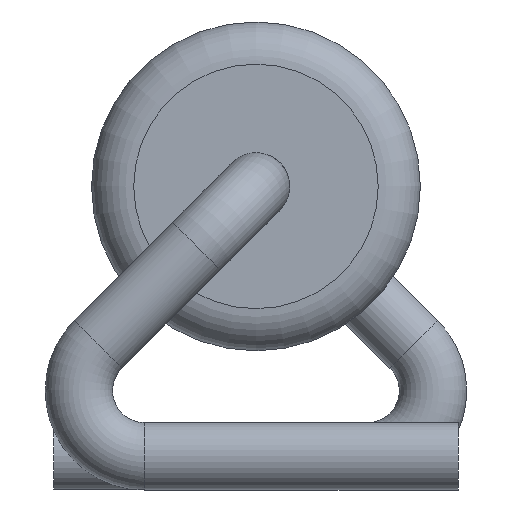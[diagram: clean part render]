
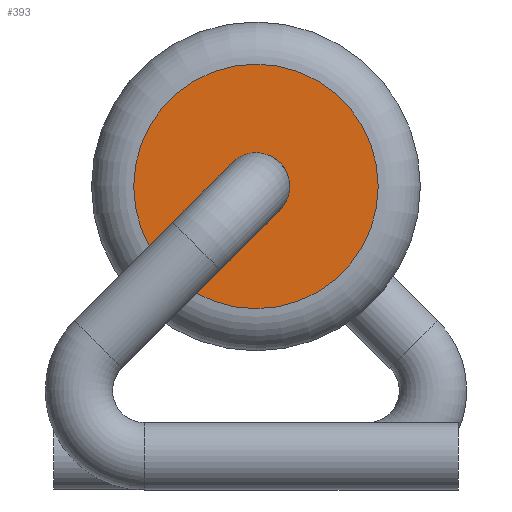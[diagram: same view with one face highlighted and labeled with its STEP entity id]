
A CAD part, left-side view. The second image highlights one B-rep face of the part: STEP entity #393.
In plain terms, the highlighted planar face has unit normal (-1, 0, 0).
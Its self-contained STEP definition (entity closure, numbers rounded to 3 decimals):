
#270=CARTESIAN_POINT('',(-5.5,0.4,0.));
#271=VERTEX_POINT('',#270);
#272=CARTESIAN_POINT('',(-5.5,0.0,0.0));
#273=DIRECTION('',(1.0,0.0,0.0));
#274=DIRECTION('',(0.0,-1.0,0.0));
#275=AXIS2_PLACEMENT_3D('',#272,#273,#274);
#276=CIRCLE('',#275,0.4);
#277=EDGE_CURVE('',#271,#271,#276,.T.);
#370=CARTESIAN_POINT('',(-5.5,0.,1.45));
#371=VERTEX_POINT('',#370);
#372=CARTESIAN_POINT('',(-5.5,0.0,0.));
#373=DIRECTION('',(1.0,0.0,0.0));
#374=DIRECTION('',(0.0,0.0,-1.0));
#375=AXIS2_PLACEMENT_3D('',#372,#373,#374);
#376=CIRCLE('',#375,1.45);
#377=EDGE_CURVE('',#371,#371,#376,.T.);
#382=CARTESIAN_POINT('',(-5.5,0.0,0.975));
#383=DIRECTION('',(-1.0,0.0,0.0));
#384=DIRECTION('',(0.0,0.0,1.0));
#385=AXIS2_PLACEMENT_3D('',#382,#383,#384);
#386=PLANE('',#385);
#387=ORIENTED_EDGE('',*,*,#377,.F.);
#388=EDGE_LOOP('',(#387));
#389=FACE_OUTER_BOUND('',#388,.T.);
#390=ORIENTED_EDGE('',*,*,#277,.T.);
#391=EDGE_LOOP('',(#390));
#392=FACE_BOUND('',#391,.T.);
#393=ADVANCED_FACE('',(#389,#392),#386,.T.);
